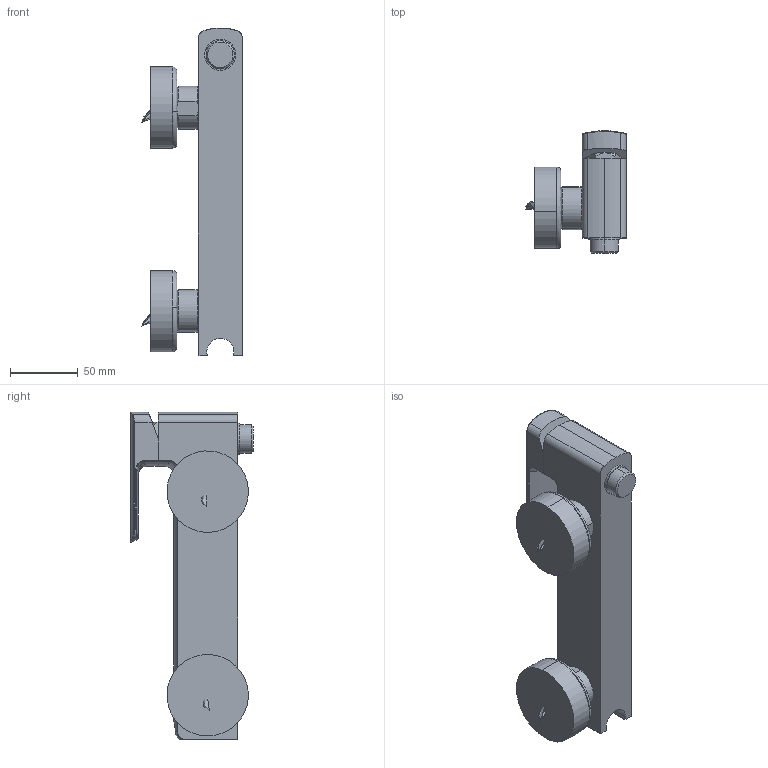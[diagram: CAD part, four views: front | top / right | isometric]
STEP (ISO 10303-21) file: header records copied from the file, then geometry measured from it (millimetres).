
FILE_DESCRIPTION (( 'STEP AP214' ), '1' );
FILE_NAME ('56202610 x architetti.STEP', '2024-11-25T10:16:06', ( '' ), ( '' ), 'SwSTEP 2.0', 'SolidWorks 2020', '' );
FILE_SCHEMA (( 'AUTOMOTIVE_DESIGN' ));
Length unit declared in the file: millimetre
Products named in the file (1): 56202610 x architetti
Bounding box: 74.26 x 90.15 x 241.62 mm (x, y, z)
Surface area: 92398.7 mm2 (no closed solid volume)
Topology: 0 solids, 25 shells, 463 faces, 1159 edges, 760 vertices
Faces by surface type: plane 164, cylinder 143, bspline 97, cone 43, torus 16
Entity records: 26180 total; most frequent: CARTESIAN_POINT 11211, ORIENTED_EDGE 2212, DIRECTION 1781, EDGE_CURVE 1157, VERTEX_POINT 760, AXIS2_PLACEMENT_3D 681, EDGE_LOOP 501, ADVANCED_FACE 463
